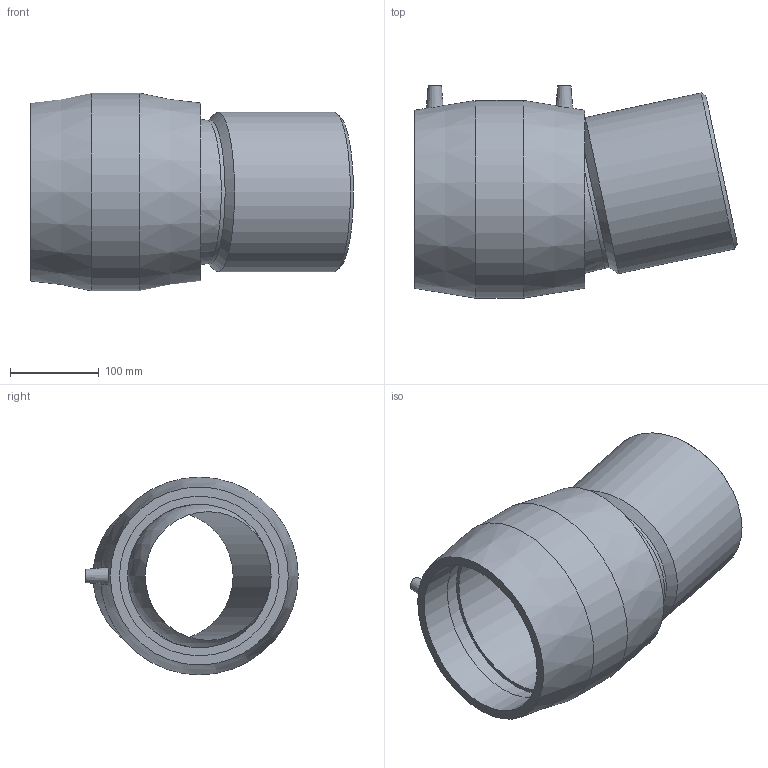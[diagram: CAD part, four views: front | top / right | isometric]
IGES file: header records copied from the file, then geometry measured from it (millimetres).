
Global section: file name: 4947D4180.ipt; native system: Autodesk Inventor 2015; preprocessor: unknown; author: KIM; date: 20171106.094212; units: millimetre
Bounding box: 364.07 x 239.5 x 223 mm (x, y, z)
Volume: 3815413.8 mm3; surface area: 456693.8 mm2
Topology: 1 solids, 1 shells, 32 faces, 71 edges, 48 vertices
Faces by surface type: plane 11, revolution 7, cone 6, cylinder 6, sphere 2
Full cylindrical faces by diameter (mm): 4 x2, 180 x1, 223 x1
